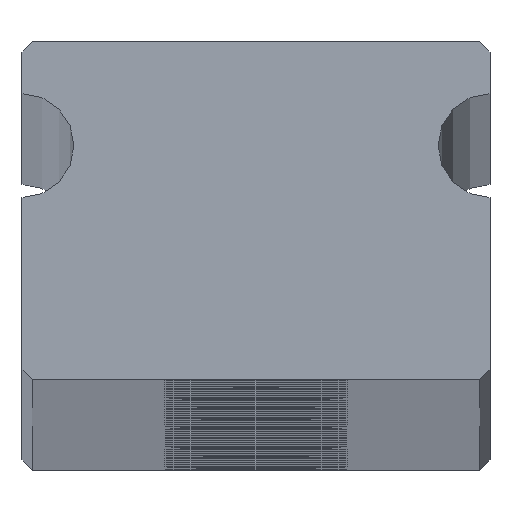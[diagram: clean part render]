
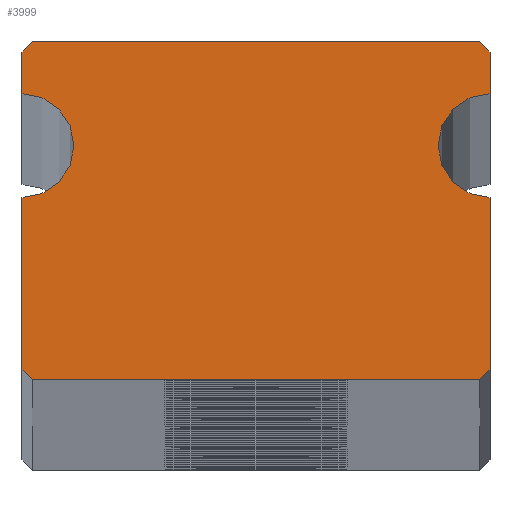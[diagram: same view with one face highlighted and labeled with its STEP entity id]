
A CAD part, top view. The second image highlights one B-rep face of the part: STEP entity #3999.
In plain terms, the highlighted planar face has unit normal (0, 0, 1).
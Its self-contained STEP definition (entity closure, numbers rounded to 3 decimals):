
#156 = DIRECTION ( 'NONE',  ( 1., 0., 0. ) ) ;
#183 = VERTEX_POINT ( 'NONE', #4885 ) ;
#188 = AXIS2_PLACEMENT_3D ( 'NONE', #1154, #1118, #6745 ) ;
#237 = DIRECTION ( 'NONE',  ( -0.707, -0.707, 0. ) ) ;
#260 = VERTEX_POINT ( 'NONE', #361 ) ;
#308 = VERTEX_POINT ( 'NONE', #7359 ) ;
#361 = CARTESIAN_POINT ( 'NONE',  ( -4.3, 2.86, 1000. ) ) ;
#432 = LINE ( 'NONE', #4292, #3064 ) ;
#472 = DIRECTION ( 'NONE',  ( 0.707, -0.707, 0. ) ) ;
#492 = AXIS2_PLACEMENT_3D ( 'NONE', #5875, #3220, #156 ) ;
#1040 = ORIENTED_EDGE ( 'NONE', *, *, #6581, .T. ) ;
#1118 = DIRECTION ( 'NONE',  ( 0., 0., 1. ) ) ;
#1136 = EDGE_CURVE ( 'NONE', #5206, #4650, #6710, .T. ) ;
#1154 = CARTESIAN_POINT ( 'NONE',  ( 4.5, 0.86, 1000. ) ) ;
#1297 = VECTOR ( 'NONE', #2487, 1000. ) ;
#1326 = EDGE_CURVE ( 'NONE', #4713, #183, #3499, .T. ) ;
#1332 = VERTEX_POINT ( 'NONE', #6034 ) ;
#1340 = CARTESIAN_POINT ( 'NONE',  ( -4.3, -3.64, 1000. ) ) ;
#1376 = LINE ( 'NONE', #5810, #1297 ) ;
#1396 = LINE ( 'NONE', #5700, #6109 ) ;
#1483 = VECTOR ( 'NONE', #1731, 1000. ) ;
#1514 = CIRCLE ( 'NONE', #7327, 1. ) ;
#1575 = ORIENTED_EDGE ( 'NONE', *, *, #1136, .T. ) ;
#1731 = DIRECTION ( 'NONE',  ( -1., 0., 0. ) ) ;
#1952 = CARTESIAN_POINT ( 'NONE',  ( -4.5, -0.14, 1000. ) ) ;
#1957 = CARTESIAN_POINT ( 'NONE',  ( 4.5, 0.86, 1000. ) ) ;
#1982 = EDGE_CURVE ( 'NONE', #2177, #5206, #5742, .T. ) ;
#2111 = DIRECTION ( 'NONE',  ( 1., 0., 0. ) ) ;
#2167 = ORIENTED_EDGE ( 'NONE', *, *, #4658, .T. ) ;
#2177 = VERTEX_POINT ( 'NONE', #3442 ) ;
#2331 = CARTESIAN_POINT ( 'NONE',  ( 4.3, -3.64, 1000. ) ) ;
#2409 = ORIENTED_EDGE ( 'NONE', *, *, #7396, .T. ) ;
#2487 = DIRECTION ( 'NONE',  ( 0., 1., 0. ) ) ;
#2549 = ORIENTED_EDGE ( 'NONE', *, *, #1326, .T. ) ;
#2574 = DIRECTION ( 'NONE',  ( 1., 0., 0. ) ) ;
#2587 = DIRECTION ( 'NONE',  ( 1., 0., 0. ) ) ;
#2596 = ORIENTED_EDGE ( 'NONE', *, *, #6822, .T. ) ;
#2612 = VECTOR ( 'NONE', #2968, 1000. ) ;
#2628 = DIRECTION ( 'NONE',  ( 0., 1., 0. ) ) ;
#2958 = VERTEX_POINT ( 'NONE', #8181 ) ;
#2968 = DIRECTION ( 'NONE',  ( 0., -1., 0. ) ) ;
#3016 = PLANE ( 'NONE',  #188 ) ;
#3041 = ORIENTED_EDGE ( 'NONE', *, *, #3770, .T. ) ;
#3064 = VECTOR ( 'NONE', #472, 1000. ) ;
#3104 = EDGE_CURVE ( 'NONE', #260, #4713, #7767, .T. ) ;
#3194 = CARTESIAN_POINT ( 'NONE',  ( 4.5, 1.86, 1000. ) ) ;
#3220 = DIRECTION ( 'NONE',  ( 0., 0., -1. ) ) ;
#3274 = VERTEX_POINT ( 'NONE', #7622 ) ;
#3314 = DIRECTION ( 'NONE',  ( -0.707, 0.707, 0. ) ) ;
#3382 = CARTESIAN_POINT ( 'NONE',  ( -4.3, 2.86, 1000. ) ) ;
#3442 = CARTESIAN_POINT ( 'NONE',  ( 4.5, -0.14, 1000. ) ) ;
#3458 = CARTESIAN_POINT ( 'NONE',  ( -4.5, 2.66, 1000. ) ) ;
#3499 = LINE ( 'NONE', #3458, #2612 ) ;
#3506 = CARTESIAN_POINT ( 'NONE',  ( 3.5, 0.86, 1000. ) ) ;
#3684 = EDGE_CURVE ( 'NONE', #3699, #308, #5091, .T. ) ;
#3699 = VERTEX_POINT ( 'NONE', #7693 ) ;
#3770 = EDGE_CURVE ( 'NONE', #183, #3274, #1514, .T. ) ;
#3999 = ADVANCED_FACE ( 'NONE', ( #4841 ), #3016, .T. ) ;
#4123 = VECTOR ( 'NONE', #2628, 1000. ) ;
#4292 = CARTESIAN_POINT ( 'NONE',  ( -4.5, -3.44, 1000. ) ) ;
#4518 = DIRECTION ( 'NONE',  ( 0., -1., 0. ) ) ;
#4619 = EDGE_LOOP ( 'NONE', ( #8128, #1575, #2409, #6700, #7283, #8000, #2549, #3041, #2167, #2596, #6727, #5753, #1040 ) ) ;
#4650 = VERTEX_POINT ( 'NONE', #3194 ) ;
#4658 = EDGE_CURVE ( 'NONE', #3274, #1332, #6384, .T. ) ;
#4695 = CARTESIAN_POINT ( 'NONE',  ( 4.5, -3.44, 1000. ) ) ;
#4713 = VERTEX_POINT ( 'NONE', #7042 ) ;
#4841 = FACE_OUTER_BOUND ( 'NONE', #4619, .T. ) ;
#4885 = CARTESIAN_POINT ( 'NONE',  ( -4.5, 1.86, 1000. ) ) ;
#5078 = LINE ( 'NONE', #7593, #4123 ) ;
#5091 = LINE ( 'NONE', #5678, #6013 ) ;
#5206 = VERTEX_POINT ( 'NONE', #3506 ) ;
#5579 = CARTESIAN_POINT ( 'NONE',  ( 4.3, 2.86, 1000. ) ) ;
#5624 = LINE ( 'NONE', #5579, #1483 ) ;
#5678 = CARTESIAN_POINT ( 'NONE',  ( 4.5, 2.66, 1000. ) ) ;
#5700 = CARTESIAN_POINT ( 'NONE',  ( -4.3, -3.64, 1000. ) ) ;
#5742 = CIRCLE ( 'NONE', #7195, 1. ) ;
#5753 = ORIENTED_EDGE ( 'NONE', *, *, #7162, .T. ) ;
#5809 = VECTOR ( 'NONE', #6185, 1000. ) ;
#5810 = CARTESIAN_POINT ( 'NONE',  ( 4.5, 1.86, 1000. ) ) ;
#5875 = CARTESIAN_POINT ( 'NONE',  ( 4.5, 0.86, 1000. ) ) ;
#6013 = VECTOR ( 'NONE', #3314, 1000. ) ;
#6022 = VERTEX_POINT ( 'NONE', #4695 ) ;
#6034 = CARTESIAN_POINT ( 'NONE',  ( -4.5, -3.44, 1000. ) ) ;
#6109 = VECTOR ( 'NONE', #2587, 1000. ) ;
#6185 = DIRECTION ( 'NONE',  ( 0.707, 0.707, 0. ) ) ;
#6384 = LINE ( 'NONE', #1952, #6392 ) ;
#6392 = VECTOR ( 'NONE', #4518, 1000. ) ;
#6426 = EDGE_CURVE ( 'NONE', #308, #260, #5624, .T. ) ;
#6430 = DIRECTION ( 'NONE',  ( 0., 0., -1. ) ) ;
#6460 = CARTESIAN_POINT ( 'NONE',  ( -4.5, 0.86, 1000. ) ) ;
#6581 = EDGE_CURVE ( 'NONE', #6022, #2177, #5078, .T. ) ;
#6638 = EDGE_CURVE ( 'NONE', #8062, #2958, #1396, .T. ) ;
#6700 = ORIENTED_EDGE ( 'NONE', *, *, #3684, .T. ) ;
#6710 = CIRCLE ( 'NONE', #492, 1. ) ;
#6727 = ORIENTED_EDGE ( 'NONE', *, *, #6638, .T. ) ;
#6745 = DIRECTION ( 'NONE',  ( 1., 0., 0. ) ) ;
#6822 = EDGE_CURVE ( 'NONE', #1332, #8062, #432, .T. ) ;
#7042 = CARTESIAN_POINT ( 'NONE',  ( -4.5, 2.66, 1000. ) ) ;
#7162 = EDGE_CURVE ( 'NONE', #2958, #6022, #7500, .T. ) ;
#7195 = AXIS2_PLACEMENT_3D ( 'NONE', #1957, #6430, #2574 ) ;
#7283 = ORIENTED_EDGE ( 'NONE', *, *, #6426, .T. ) ;
#7327 = AXIS2_PLACEMENT_3D ( 'NONE', #6460, #7941, #2111 ) ;
#7359 = CARTESIAN_POINT ( 'NONE',  ( 4.3, 2.86, 1000. ) ) ;
#7396 = EDGE_CURVE ( 'NONE', #4650, #3699, #1376, .T. ) ;
#7500 = LINE ( 'NONE', #2331, #5809 ) ;
#7593 = CARTESIAN_POINT ( 'NONE',  ( 4.5, -3.44, 1000. ) ) ;
#7622 = CARTESIAN_POINT ( 'NONE',  ( -4.5, -0.14, 1000. ) ) ;
#7693 = CARTESIAN_POINT ( 'NONE',  ( 4.5, 2.66, 1000. ) ) ;
#7755 = VECTOR ( 'NONE', #237, 1000. ) ;
#7767 = LINE ( 'NONE', #3382, #7755 ) ;
#7941 = DIRECTION ( 'NONE',  ( 0., 0., -1. ) ) ;
#8000 = ORIENTED_EDGE ( 'NONE', *, *, #3104, .T. ) ;
#8062 = VERTEX_POINT ( 'NONE', #1340 ) ;
#8128 = ORIENTED_EDGE ( 'NONE', *, *, #1982, .T. ) ;
#8181 = CARTESIAN_POINT ( 'NONE',  ( 4.3, -3.64, 1000. ) ) ;
